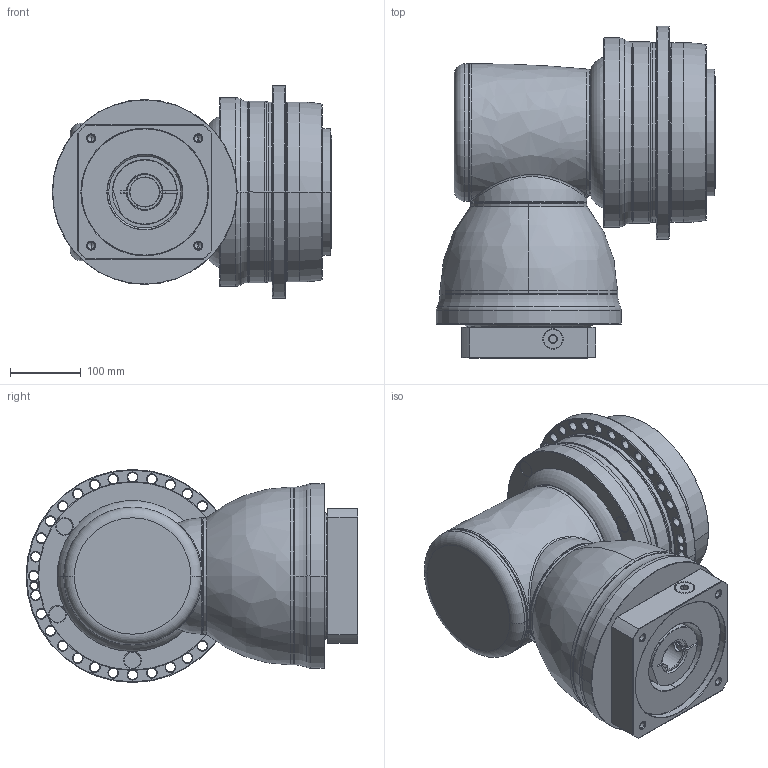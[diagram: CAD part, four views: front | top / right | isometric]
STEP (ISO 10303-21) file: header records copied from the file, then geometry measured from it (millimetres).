
FILE_DESCRIPTION((''),'2;1');
FILE_NAME('APK255_2ST_SBG_42-P0409A00201_ASM','2018-10-30T',('d01226'),(''),'PRO/ENGINEER BY PARAMETRIC TECHNOLOGY CORPORATION, 2015240','PRO/ENGINEER BY PARAMETRIC TECHNOLOGY CORPORATION, 2015240','');
FILE_SCHEMA(('CONFIG_CONTROL_DESIGN'));
Length unit declared in the file: millimetre
Products named in the file (13): P0278701003; P0359701103; P1211700001; P1802710001; P1018700002; P1365700001; P1007701001; P1318701201; P0503A00012; P0912702001; P0409A00201; 21711422019; APK255_2ST_SBG_42-P0409A00201_ASM
Assembly tree (12 placements, depth 2):
  APK255_2ST_SBG_42-P0409A00201_ASM
    P0278701003
    P0359701103
    P1211700001
    P1802710001
    P1018700002
    P1365700001
    P1007701001
    P1318701201
    P0503A00012
    P0912702001
    P0409A00201
    21711422019
Bounding box: 396 x 470.5 x 302 mm (x, y, z)
Volume: 23401260.2 mm3; surface area: 1472832.6 mm2
Topology: 13 solids, 36 shells, 858 faces, 2014 edges, 1212 vertices
Faces by surface type: cylinder 339, cone 269, plane 137, torus 81, bspline 31, sphere 1
Entity records: 30805 total; most frequent: CARTESIAN_POINT 10383, DIRECTION 4697, ORIENTED_EDGE 3856, AXIS2_PLACEMENT_3D 2011, EDGE_CURVE 1975, VERTEX_POINT 1212, CIRCLE 1147, EDGE_LOOP 1011
